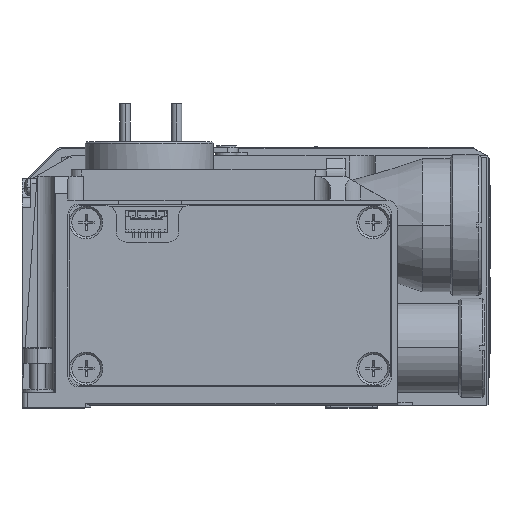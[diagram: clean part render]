
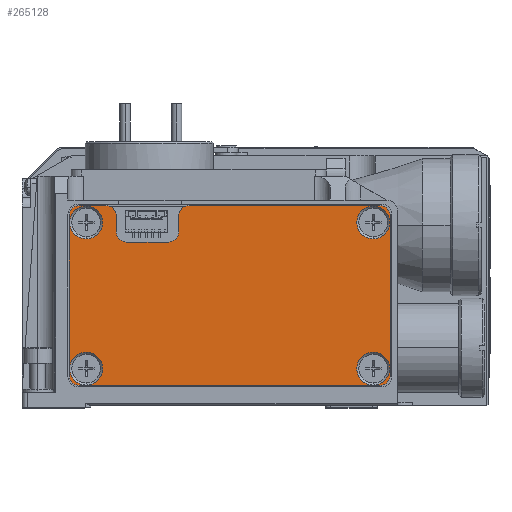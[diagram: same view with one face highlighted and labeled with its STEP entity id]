
A CAD part, top view. The second image highlights one B-rep face of the part: STEP entity #265128.
In plain terms, the highlighted planar face has unit normal (0, 0, 1).
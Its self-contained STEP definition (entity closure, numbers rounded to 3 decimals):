
#90977=CARTESIAN_POINT('',(-55.65,1.75,45.7));
#90978=DIRECTION('',(0.,0.,1.));
#90979=DIRECTION('',(1.,0.,0.));
#90980=AXIS2_PLACEMENT_3D('',#90977,#90978,#90979);
#90982=DIRECTION('',(0.,-1.,0.));
#90983=VECTOR('',#90982,3.);
#90984=CARTESIAN_POINT('',(-53.65,1.75,45.7));
#90985=LINE('',#90984,#90983);
#90986=CARTESIAN_POINT('',(-51.65,-1.25,45.7));
#90987=DIRECTION('',(0.,0.,1.));
#90988=DIRECTION('',(-1.,0.,0.));
#90989=AXIS2_PLACEMENT_3D('',#90986,#90987,#90988);
#90991=DIRECTION('',(1.,0.,0.));
#90992=VECTOR('',#90991,8.);
#90993=CARTESIAN_POINT('',(-51.65,-3.25,45.7));
#90994=LINE('',#90993,#90992);
#90995=CARTESIAN_POINT('',(-43.65,-1.25,45.7));
#90996=DIRECTION('',(0.,0.,1.));
#90997=DIRECTION('',(0.,-1.,0.));
#90998=AXIS2_PLACEMENT_3D('',#90995,#90996,#90997);
#91000=DIRECTION('',(0.,-1.,0.));
#91001=VECTOR('',#91000,3.);
#91002=CARTESIAN_POINT('',(-41.65,1.75,45.7));
#91003=LINE('',#91002,#91001);
#91004=CARTESIAN_POINT('',(-39.65,1.75,45.7));
#91005=DIRECTION('',(0.,0.,1.));
#91006=DIRECTION('',(0.,1.,0.));
#91007=AXIS2_PLACEMENT_3D('',#91004,#91005,#91006);
#91009=DIRECTION('',(1.,0.,0.));
#91010=VECTOR('',#91009,36.5);
#91011=CARTESIAN_POINT('',(-39.65,3.75,45.7));
#91012=LINE('',#91011,#91010);
#91013=CARTESIAN_POINT('',(-3.15,1.75,45.7));
#91014=DIRECTION('',(0.,0.,1.));
#91015=DIRECTION('',(1.,0.,0.));
#91016=AXIS2_PLACEMENT_3D('',#91013,#91014,#91015);
#91018=DIRECTION('',(0.,-1.,0.));
#91019=VECTOR('',#91018,30.5);
#91020=CARTESIAN_POINT('',(-1.15,1.75,45.7));
#91021=LINE('',#91020,#91019);
#91022=CARTESIAN_POINT('',(-3.15,-28.75,45.7));
#91023=DIRECTION('',(0.,0.,1.));
#91024=DIRECTION('',(0.,-1.,0.));
#91025=AXIS2_PLACEMENT_3D('',#91022,#91023,#91024);
#91027=DIRECTION('',(-1.,0.,0.));
#91028=VECTOR('',#91027,57.5);
#91029=CARTESIAN_POINT('',(-3.15,-30.75,45.7));
#91030=LINE('',#91029,#91028);
#91031=CARTESIAN_POINT('',(-60.65,-28.75,45.7));
#91032=DIRECTION('',(0.,0.,1.));
#91033=DIRECTION('',(-1.,0.,0.));
#91034=AXIS2_PLACEMENT_3D('',#91031,#91032,#91033);
#91036=DIRECTION('',(0.,1.,0.));
#91037=VECTOR('',#91036,30.5);
#91038=CARTESIAN_POINT('',(-62.65,-28.75,45.7));
#91039=LINE('',#91038,#91037);
#91040=CARTESIAN_POINT('',(-60.65,1.75,45.7));
#91041=DIRECTION('',(0.,0.,1.));
#91042=DIRECTION('',(0.,1.,0.));
#91043=AXIS2_PLACEMENT_3D('',#91040,#91041,#91042);
#91045=DIRECTION('',(1.,0.,0.));
#91046=VECTOR('',#91045,5.);
#91047=CARTESIAN_POINT('',(-60.65,3.75,45.7));
#91048=LINE('',#91047,#91046);
#91049=CARTESIAN_POINT('',(-4.4,0.5,45.7));
#91050=DIRECTION('',(0.,0.,-1.));
#91051=DIRECTION('',(0.,1.,0.));
#91052=AXIS2_PLACEMENT_3D('',#91049,#91050,#91051);
#91054=CARTESIAN_POINT('',(-4.4,0.5,45.7));
#91055=DIRECTION('',(0.,0.,-1.));
#91056=DIRECTION('',(0.,-1.,0.));
#91057=AXIS2_PLACEMENT_3D('',#91054,#91055,#91056);
#91059=CARTESIAN_POINT('',(-4.4,-27.5,45.7));
#91060=DIRECTION('',(0.,0.,-1.));
#91061=DIRECTION('',(0.,1.,0.));
#91062=AXIS2_PLACEMENT_3D('',#91059,#91060,#91061);
#91064=CARTESIAN_POINT('',(-4.4,-27.5,45.7));
#91065=DIRECTION('',(0.,0.,-1.));
#91066=DIRECTION('',(0.,-1.,0.));
#91067=AXIS2_PLACEMENT_3D('',#91064,#91065,#91066);
#91069=CARTESIAN_POINT('',(-59.4,0.5,45.7));
#91070=DIRECTION('',(0.,0.,-1.));
#91071=DIRECTION('',(0.,1.,0.));
#91072=AXIS2_PLACEMENT_3D('',#91069,#91070,#91071);
#91074=CARTESIAN_POINT('',(-59.4,0.5,45.7));
#91075=DIRECTION('',(0.,0.,-1.));
#91076=DIRECTION('',(0.,-1.,0.));
#91077=AXIS2_PLACEMENT_3D('',#91074,#91075,#91076);
#91079=CARTESIAN_POINT('',(-59.4,-27.5,45.7));
#91080=DIRECTION('',(0.,0.,-1.));
#91081=DIRECTION('',(0.,1.,0.));
#91082=AXIS2_PLACEMENT_3D('',#91079,#91080,#91081);
#91084=CARTESIAN_POINT('',(-59.4,-27.5,45.7));
#91085=DIRECTION('',(0.,0.,-1.));
#91086=DIRECTION('',(0.,-1.,0.));
#91087=AXIS2_PLACEMENT_3D('',#91084,#91085,#91086);
#123061=CARTESIAN_POINT('',(-4.4,3.65,45.7));
#123062=CARTESIAN_POINT('',(-4.4,-2.65,45.7));
#123063=VERTEX_POINT('',#123061);
#123064=VERTEX_POINT('',#123062);
#123065=CARTESIAN_POINT('',(-4.4,-24.35,45.7));
#123066=CARTESIAN_POINT('',(-4.4,-30.65,45.7));
#123067=VERTEX_POINT('',#123065);
#123068=VERTEX_POINT('',#123066);
#123069=CARTESIAN_POINT('',(-59.4,3.65,45.7));
#123070=CARTESIAN_POINT('',(-59.4,-2.65,45.7));
#123071=VERTEX_POINT('',#123069);
#123072=VERTEX_POINT('',#123070);
#123073=CARTESIAN_POINT('',(-59.4,-24.35,45.7));
#123074=CARTESIAN_POINT('',(-59.4,-30.65,45.7));
#123075=VERTEX_POINT('',#123073);
#123076=VERTEX_POINT('',#123074);
#123081=CARTESIAN_POINT('',(-62.65,-28.75,45.7));
#123082=VERTEX_POINT('',#123081);
#123083=CARTESIAN_POINT('',(-60.65,-30.75,45.7));
#123084=VERTEX_POINT('',#123083);
#123089=CARTESIAN_POINT('',(-3.15,-30.75,45.7));
#123090=VERTEX_POINT('',#123089);
#123091=CARTESIAN_POINT('',(-1.15,-28.75,45.7));
#123092=VERTEX_POINT('',#123091);
#123093=CARTESIAN_POINT('',(-1.15,1.75,45.7));
#123094=CARTESIAN_POINT('',(-3.15,3.75,45.7));
#123095=VERTEX_POINT('',#123093);
#123096=VERTEX_POINT('',#123094);
#123105=CARTESIAN_POINT('',(-60.65,3.75,45.7));
#123106=VERTEX_POINT('',#123105);
#123107=CARTESIAN_POINT('',(-62.65,1.75,45.7));
#123108=VERTEX_POINT('',#123107);
#123109=CARTESIAN_POINT('',(-53.65,-1.25,45.7));
#123110=CARTESIAN_POINT('',(-51.65,-3.25,45.7));
#123111=VERTEX_POINT('',#123109);
#123112=VERTEX_POINT('',#123110);
#123113=CARTESIAN_POINT('',(-43.65,-3.25,45.7));
#123114=VERTEX_POINT('',#123113);
#123115=CARTESIAN_POINT('',(-41.65,-1.25,45.7));
#123116=VERTEX_POINT('',#123115);
#123117=CARTESIAN_POINT('',(-53.65,1.75,45.7));
#123118=CARTESIAN_POINT('',(-55.65,3.75,45.7));
#123119=VERTEX_POINT('',#123117);
#123120=VERTEX_POINT('',#123118);
#123121=CARTESIAN_POINT('',(-39.65,3.75,45.7));
#123122=CARTESIAN_POINT('',(-41.65,1.75,45.7));
#123123=VERTEX_POINT('',#123121);
#123124=VERTEX_POINT('',#123122);
#265073=CARTESIAN_POINT('',(-31.9,-13.5,45.7));
#265074=DIRECTION('',(0.,0.,-1.));
#265075=DIRECTION('',(0.,-1.,0.));
#265076=AXIS2_PLACEMENT_3D('',#265073,#265074,#265075);
#265077=PLANE('',#265076);
#265079=ORIENTED_EDGE('',*,*,#265078,.F.);
#265080=ORIENTED_EDGE('',*,*,#264911,.T.);
#265081=ORIENTED_EDGE('',*,*,#264933,.T.);
#265082=ORIENTED_EDGE('',*,*,#264954,.T.);
#265083=ORIENTED_EDGE('',*,*,#264975,.T.);
#265084=ORIENTED_EDGE('',*,*,#264996,.F.);
#265085=ORIENTED_EDGE('',*,*,#265018,.F.);
#265086=ORIENTED_EDGE('',*,*,#265040,.T.);
#265087=ORIENTED_EDGE('',*,*,#265057,.F.);
#265089=ORIENTED_EDGE('',*,*,#265088,.T.);
#265091=ORIENTED_EDGE('',*,*,#265090,.F.);
#265093=ORIENTED_EDGE('',*,*,#265092,.T.);
#265095=ORIENTED_EDGE('',*,*,#265094,.F.);
#265097=ORIENTED_EDGE('',*,*,#265096,.T.);
#265099=ORIENTED_EDGE('',*,*,#265098,.F.);
#265101=ORIENTED_EDGE('',*,*,#265100,.T.);
#265102=EDGE_LOOP('',(#265079,#265080,#265081,#265082,#265083,#265084,#265085,
#265086,#265087,#265089,#265091,#265093,#265095,#265097,#265099,#265101));
#265103=FACE_OUTER_BOUND('',#265102,.F.);
#265105=ORIENTED_EDGE('',*,*,#265104,.F.);
#265107=ORIENTED_EDGE('',*,*,#265106,.F.);
#265108=EDGE_LOOP('',(#265105,#265107));
#265109=FACE_BOUND('',#265108,.F.);
#265111=ORIENTED_EDGE('',*,*,#265110,.F.);
#265113=ORIENTED_EDGE('',*,*,#265112,.F.);
#265114=EDGE_LOOP('',(#265111,#265113));
#265115=FACE_BOUND('',#265114,.F.);
#265117=ORIENTED_EDGE('',*,*,#265116,.F.);
#265119=ORIENTED_EDGE('',*,*,#265118,.F.);
#265120=EDGE_LOOP('',(#265117,#265119));
#265121=FACE_BOUND('',#265120,.F.);
#265123=ORIENTED_EDGE('',*,*,#265122,.F.);
#265125=ORIENTED_EDGE('',*,*,#265124,.F.);
#265126=EDGE_LOOP('',(#265123,#265125));
#265127=FACE_BOUND('',#265126,.F.);
#265128=ADVANCED_FACE('',(#265103,#265109,#265115,#265121,#265127),#265077,.F.);
#90981=CIRCLE('',#90980,2.);
#90990=CIRCLE('',#90989,2.);
#90999=CIRCLE('',#90998,2.);
#91008=CIRCLE('',#91007,2.);
#91017=CIRCLE('',#91016,2.);
#91026=CIRCLE('',#91025,2.);
#91035=CIRCLE('',#91034,2.);
#91044=CIRCLE('',#91043,2.);
#91053=CIRCLE('',#91052,3.15);
#91058=CIRCLE('',#91057,3.15);
#91063=CIRCLE('',#91062,3.15);
#91068=CIRCLE('',#91067,3.15);
#91073=CIRCLE('',#91072,3.15);
#91078=CIRCLE('',#91077,3.15);
#91083=CIRCLE('',#91082,3.15);
#91088=CIRCLE('',#91087,3.15);
#264911=EDGE_CURVE('',#123119,#123111,#90985,.T.);
#264933=EDGE_CURVE('',#123111,#123112,#90990,.T.);
#264954=EDGE_CURVE('',#123112,#123114,#90994,.T.);
#264975=EDGE_CURVE('',#123114,#123116,#90999,.T.);
#264996=EDGE_CURVE('',#123124,#123116,#91003,.T.);
#265018=EDGE_CURVE('',#123123,#123124,#91008,.T.);
#265040=EDGE_CURVE('',#123123,#123096,#91012,.T.);
#265057=EDGE_CURVE('',#123095,#123096,#91017,.T.);
#265078=EDGE_CURVE('',#123119,#123120,#90981,.T.);
#265088=EDGE_CURVE('',#123095,#123092,#91021,.T.);
#265090=EDGE_CURVE('',#123090,#123092,#91026,.T.);
#265092=EDGE_CURVE('',#123090,#123084,#91030,.T.);
#265094=EDGE_CURVE('',#123082,#123084,#91035,.T.);
#265096=EDGE_CURVE('',#123082,#123108,#91039,.T.);
#265098=EDGE_CURVE('',#123106,#123108,#91044,.T.);
#265100=EDGE_CURVE('',#123106,#123120,#91048,.T.);
#265104=EDGE_CURVE('',#123063,#123064,#91053,.T.);
#265106=EDGE_CURVE('',#123064,#123063,#91058,.T.);
#265110=EDGE_CURVE('',#123067,#123068,#91063,.T.);
#265112=EDGE_CURVE('',#123068,#123067,#91068,.T.);
#265116=EDGE_CURVE('',#123071,#123072,#91073,.T.);
#265118=EDGE_CURVE('',#123072,#123071,#91078,.T.);
#265122=EDGE_CURVE('',#123075,#123076,#91083,.T.);
#265124=EDGE_CURVE('',#123076,#123075,#91088,.T.);
